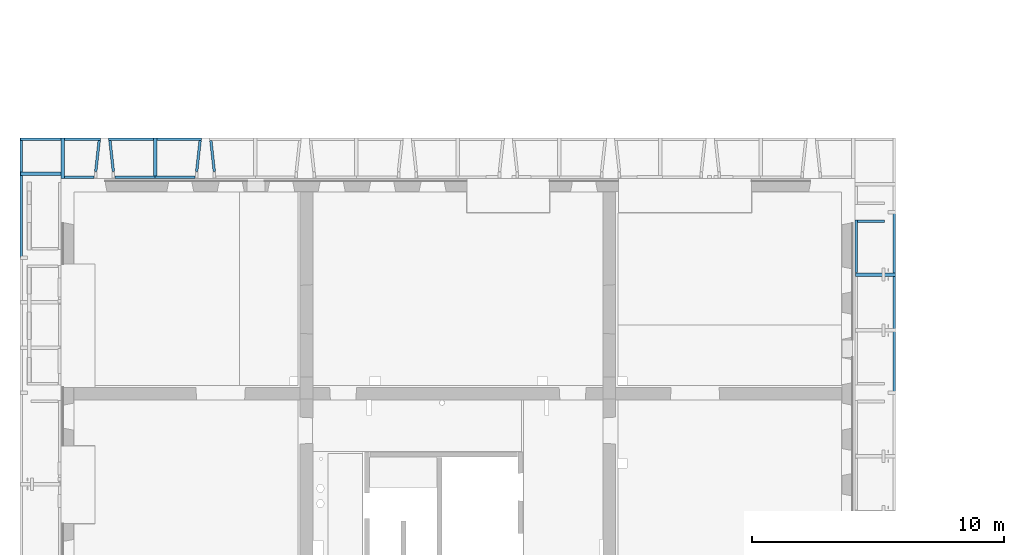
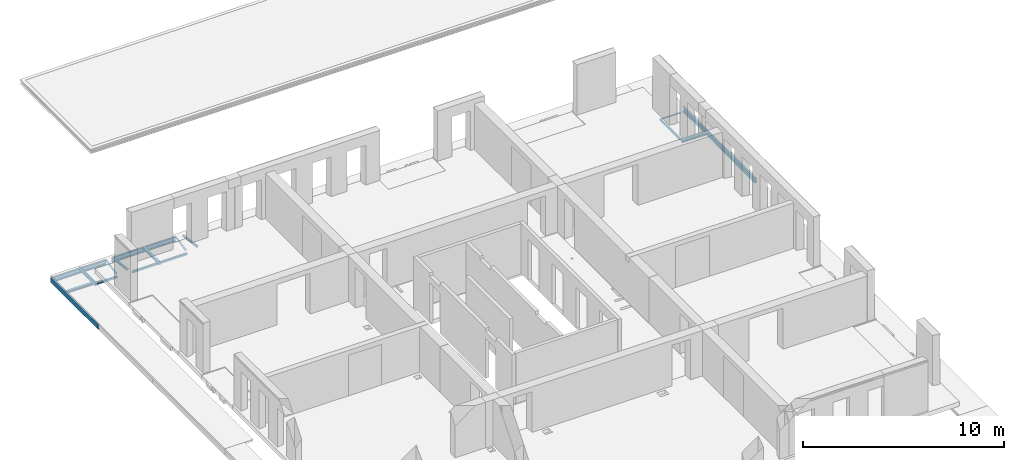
# One storey, part 7 of 27: 17 beams.
"""IFC2X3 building model written with IfcOpenShell, lengths in millimetres."""

from ifc_helpers import new_model, entity, si_unit, converted_unit, derived_unit, direction, frame, frame_2d, origin, place, context, subcontext, project, spatial, polyline, circle_curve, parameter, trimmed, segment, composite_curve, i_section, outline, extrude, material, type_object, element, save


model = new_model("IFC2X3")

# Units and contexts
model_context = context("Model", 3, precision=0.01, world=origin(), true_north=direction((6.12303176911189e-17, 1.0)))
body_context = subcontext(model_context, "Body", "Model", "MODEL_VIEW")
ifc_project = project(units=[si_unit("LENGTHUNIT", "METRE", prefix="MILLI"), si_unit("AREAUNIT", "SQUARE_METRE"), si_unit("VOLUMEUNIT", "CUBIC_METRE"), converted_unit("PLANEANGLEUNIT", "DEGREE", entity("IfcRatioMeasure", 0.0174532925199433), si_unit("PLANEANGLEUNIT", "RADIAN"), dimensions=[0, 0, 0, 0, 0, 0, 0]), si_unit("MASSUNIT", "GRAM", prefix="KILO"), derived_unit("MASSDENSITYUNIT", [(si_unit("MASSUNIT", "GRAM", prefix="KILO"), 1), (si_unit("LENGTHUNIT", "METRE"), -3)]), si_unit("TIMEUNIT", "SECOND"), si_unit("FREQUENCYUNIT", "HERTZ"), si_unit("THERMODYNAMICTEMPERATUREUNIT", "DEGREE_CELSIUS"), derived_unit("THERMALTRANSMITTANCEUNIT", [(si_unit("MASSUNIT", "GRAM", prefix="KILO"), 1), (si_unit("THERMODYNAMICTEMPERATUREUNIT", "KELVIN"), -1), (si_unit("TIMEUNIT", "SECOND"), -3)]), derived_unit("VOLUMETRICFLOWRATEUNIT", [(si_unit("LENGTHUNIT", "METRE"), 3), (si_unit("TIMEUNIT", "SECOND"), -1)]), si_unit("ELECTRICCURRENTUNIT", "AMPERE"), si_unit("ELECTRICVOLTAGEUNIT", "VOLT"), si_unit("POWERUNIT", "WATT"), si_unit("FORCEUNIT", "NEWTON", prefix="KILO"), si_unit("ILLUMINANCEUNIT", "LUX"), si_unit("LUMINOUSFLUXUNIT", "LUMEN"), si_unit("LUMINOUSINTENSITYUNIT", "CANDELA"), derived_unit("USERDEFINED", [(si_unit("MASSUNIT", "GRAM", prefix="KILO"), -1), (si_unit("LENGTHUNIT", "METRE"), -2), (si_unit("TIMEUNIT", "SECOND"), 3), (si_unit("LUMINOUSFLUXUNIT", "LUMEN"), 1)]), derived_unit("LINEARVELOCITYUNIT", [(si_unit("LENGTHUNIT", "METRE"), 1), (si_unit("TIMEUNIT", "SECOND"), -1)]), si_unit("PRESSUREUNIT", "PASCAL"), derived_unit("USERDEFINED", [(si_unit("LENGTHUNIT", "METRE"), -2), (si_unit("MASSUNIT", "GRAM", prefix="KILO"), 1), (si_unit("TIMEUNIT", "SECOND"), -2)])], contexts=[model_context])

# Site, building, storey
site_placement = place(None, origin())
site = spatial("IfcSite", under=ifc_project, at=site_placement, Name="Default", CompositionType="ELEMENT")
building_placement = place(site_placement, origin())
building = spatial("IfcBuilding", under=site, at=building_placement, Name="niet gebruiken", CompositionType="ELEMENT")
storey_placement = place(building_placement, frame((0.0, 0.0, 18000.0)))
storey = spatial("IfcBuildingStorey", under=building, at=storey_placement, Name="05 vijfde verdieping", CompositionType="ELEMENT", Elevation=18000.0)

# Beams
ifc_material = material(Name="NLRS_h2_staal")
beam_type_1 = type_object("IfcBeamType", Name="NLRS_28.11_SF_WPB_stalen ligger HEA_gen:ligger HEA 140", PredefinedType="BEAM")
beam_1_placement = place(storey_placement, frame((157510.0, 29430.0, -1015.0)))
element("IfcBeam", 1, at=beam_1_placement, inside=storey, type_object=beam_type_1, material=ifc_material, Name="NLRS_28.11_SF_WPB_stalen ligger HEA_gen:ligger HEA 140", ObjectType="NLRS_28.11_SF_WPB_stalen ligger HEA_gen:ligger HEA 140", context=body_context, shape_type="SweptSolid", body=[
    extrude(i_section(OverallWidth=140.000000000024, OverallDepth=133.000000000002, WebThickness=5.49999999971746, FlangeThickness=8.50000000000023, FilletRadius=12.0000000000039, at=frame_2d((-3.25428572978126e-12, -4.32720526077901e-12), x_axis=(0.0, 1.0))), frame((0.0, 0.0, -66.5000000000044), z_axis=(1.0, 0.0, 0.0), x_axis=(0.0, 0.0, -1.0)), (0.0, 0.0, 1.0), 1579.73984361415),
])
beam_2_placement = place(storey_placement, frame((126020.0, 33420.0, -1015.0), z_axis=(0.0, 0.0, 1.0), x_axis=(-1.0, 0.0, 0.0)))
element("IfcBeam", 2, at=beam_2_placement, inside=storey, type_object=beam_type_1, material=ifc_material, Name="NLRS_28.11_SF_WPB_stalen ligger HEA_gen:ligger HEA 140", ObjectType="NLRS_28.11_SF_WPB_stalen ligger HEA_gen:ligger HEA 140", context=body_context, shape_type="SweptSolid", body=[
    extrude(i_section(OverallWidth=140.000000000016, OverallDepth=133.0, WebThickness=5.4999999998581, FlangeThickness=8.49999999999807, FilletRadius=12.0000000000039, at=frame_2d((-4.33431068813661e-12, 8.66151594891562e-12), x_axis=(0.0, 1.0))), frame((0.0, 0.0, -66.5000000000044), z_axis=(1.0, 0.0, 0.0), x_axis=(0.0, 0.0, -1.0)), (0.0, 0.0, 1.0), 1609.99999999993),
])
for number, where, z_axis, x_axis, name in (
    (3, (129750.0, 34840.0, -1015.0), (0.0, 0.0, 1.0), (0.0, -1.0, 0.0), "NLRS_28.11_SF_WPB_stalen ligger HEA_gen:ligger HEA 140"),
    (4, (126090.0, 34840.0, -1015.0), (0.0, 0.0, 1.0), (0.0, -1.0, 0.0), "NLRS_28.11_SF_WPB_stalen ligger HEA_gen:ligger HEA 140"),
):
    element("IfcBeam", number, at=place(storey_placement, frame(where, z_axis=z_axis, x_axis=x_axis)), inside=storey, type_object=beam_type_1, material=ifc_material, Name=name, ObjectType="NLRS_28.11_SF_WPB_stalen ligger HEA_gen:ligger HEA 140", context=body_context, shape_type="SweptSolid", body=[
        extrude(i_section(OverallWidth=140.000000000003, OverallDepth=133.0, WebThickness=5.49999999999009, FlangeThickness=8.49999999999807, FilletRadius=11.9999999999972, at=frame_2d((-4.33431068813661e-12, -1.73301373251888e-11), x_axis=(0.0, 1.0))), frame((0.0, 0.0, -66.5000000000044), z_axis=(1.0, 0.0, 0.0), x_axis=(0.0, 0.0, -1.0)), (0.0, 0.0, 1.0), 1610.0),
    ])
beam_type_2 = type_object("IfcBeamType", Name="NLRS_28.11_SF_WPB_stalen ligger UNP_gen:ligger UNP 300", PredefinedType="BEAM")
beam_3_placement = place(storey_placement, frame((159073.0, 24750.0, -1015.0), z_axis=(0.0, 0.0, 1.0), x_axis=(0.0, 1.0, 0.0)))
element("IfcBeam", 5, at=beam_3_placement, inside=storey, type_object=beam_type_2, material=ifc_material, Name="NLRS_28.11_SF_WPB_stalen ligger UNP_gen:ligger UNP 300", ObjectType="NLRS_28.11_SF_WPB_stalen ligger UNP_gen:ligger UNP 300", context=body_context, shape_type="SweptSolid", body=[
    extrude(outline(composite_curve([segment(polyline([(-150.062397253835, -54.6666666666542), (149.937602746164, -54.6666666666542)]), True, "CONTINUOUS"), segment(polyline([(149.937602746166, -54.6666666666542), (149.937602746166, 45.333333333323)]), True, "CONTINUOUS"), segment(polyline([(149.937602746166, 45.3333333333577), (142.655201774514, 45.3333333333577)]), True, "CONTINUOUS"), segment(trimmed(circle_curve(frame_2d((142.655201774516, 37.3333333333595), x_axis=(0.0, 1.0)), 8.00000000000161), [parameter(0.0)], [parameter(89.9999999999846)], True, "PARAMETER"), True, "CONTINUOUS"), segment(polyline([(134.655201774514, 37.3333333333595), (130.390412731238, -28.6666666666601)]), True, "CONTINUOUS"), segment(trimmed(circle_curve(frame_2d((114.390412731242, -28.6666666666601), x_axis=(1.0, 0.0)), 15.9999999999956), [parameter(269.999999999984)], [parameter(0.0)], True, "PARAMETER"), False, "CONTINUOUS"), segment(polyline([(114.39041273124, -44.6666666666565), (-113.87586063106, -44.6666666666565)]), True, "CONTINUOUS"), segment(trimmed(circle_curve(frame_2d((-113.875860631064, -28.6666666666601), x_axis=(0.0, -1.0)), 15.9999999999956), [parameter(269.999999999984)], [parameter(0.0)], True, "PARAMETER"), False, "CONTINUOUS"), segment(polyline([(-129.875860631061, -28.6666666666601), (-135.044959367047, 37.3333333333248)]), True, "CONTINUOUS"), segment(trimmed(circle_curve(frame_2d((-143.04495936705, 37.3333333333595), x_axis=(1.0, 0.0)), 8.00000000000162), [parameter(0.0)], [parameter(89.9999999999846)], True, "PARAMETER"), True, "CONTINUOUS"), segment(polyline([(-143.044959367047, 45.3333333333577), (-150.062397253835, 45.3333333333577)]), True, "CONTINUOUS"), segment(polyline([(-150.062397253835, 45.3333333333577), (-150.062397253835, -54.6666666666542)]), True, "CONTINUOUS")], self_intersect=False)), frame((0.0, 27.6666666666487, -150.062397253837), z_axis=(1.0, 0.0, 0.0), x_axis=(0.0, 0.0, -1.0)), (0.0, 0.0, 1.0), 7200.00000000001),
])
beam_4_placement = place(storey_placement, frame((124427.0, 34823.0, -1015.0), z_axis=(0.0, 0.0, 1.0), x_axis=(0.0, -1.0, 0.0)))
element("IfcBeam", 6, at=beam_4_placement, inside=storey, type_object=beam_type_2, material=ifc_material, Name="NLRS_28.11_SF_WPB_stalen ligger UNP_gen:ligger UNP 300", ObjectType="NLRS_28.11_SF_WPB_stalen ligger UNP_gen:ligger UNP 300", context=body_context, shape_type="SweptSolid", body=[
    extrude(outline(composite_curve([segment(polyline([(-150.062397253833, -54.6666666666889), (149.937602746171, -54.6666666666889)]), True, "CONTINUOUS"), segment(polyline([(149.937602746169, -54.6666666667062), (149.937602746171, 45.3333333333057)]), True, "CONTINUOUS"), segment(polyline([(149.937602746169, 45.3333333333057), (142.655201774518, 45.3333333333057)]), True, "CONTINUOUS"), segment(trimmed(circle_curve(frame_2d((142.655201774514, 37.3333333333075), x_axis=(0.0, 1.0)), 7.99999999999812), [parameter(0.0)], [parameter(90.0000000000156)], True, "PARAMETER"), True, "CONTINUOUS"), segment(polyline([(134.655201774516, 37.3333333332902), (130.390412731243, -28.6666666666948)]), True, "CONTINUOUS"), segment(trimmed(circle_curve(frame_2d((114.39041273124, -28.6666666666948), x_axis=(1.0, 0.0)), 15.9999999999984), [parameter(270.0)], [parameter(0.0)], True, "PARAMETER"), False, "CONTINUOUS"), segment(polyline([(114.390412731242, -44.6666666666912), (-113.875860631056, -44.6666666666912)]), True, "CONTINUOUS"), segment(trimmed(circle_curve(frame_2d((-113.875860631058, -28.6666666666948), x_axis=(0.0, -1.0)), 15.9999999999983), [parameter(270.0)], [parameter(0.0)], True, "PARAMETER"), False, "CONTINUOUS"), segment(polyline([(-129.875860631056, -28.6666666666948), (-135.044959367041, 37.3333333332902)]), True, "CONTINUOUS"), segment(trimmed(circle_curve(frame_2d((-143.044959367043, 37.3333333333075), x_axis=(1.0, 0.0)), 7.99999999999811), [parameter(0.0)], [parameter(90.0000000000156)], True, "PARAMETER"), True, "CONTINUOUS"), segment(polyline([(-143.044959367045, 45.3333333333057), (-150.06239725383, 45.3333333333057)]), True, "CONTINUOUS"), segment(polyline([(-150.062397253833, 45.3333333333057), (-150.06239725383, -54.6666666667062)]), True, "CONTINUOUS")], self_intersect=False)), frame((-27.0, 27.6666666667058, -150.062397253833), z_axis=(1.0, 0.0, 0.0), x_axis=(0.0, 0.0, -1.0)), (0.0, 0.0, 1.0), 4750.00000000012),
])
beam_5_placement = place(storey_placement, frame((127912.705158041, 34823.0, -1015.0)))
element("IfcBeam", 7, at=beam_5_placement, inside=storey, type_object=beam_type_2, material=ifc_material, Name="NLRS_28.11_SF_WPB_stalen ligger UNP_gen:ligger UNP 300", ObjectType="NLRS_28.11_SF_WPB_stalen ligger UNP_gen:ligger UNP 300", context=body_context, shape_type="SweptSolid", body=[
    extrude(outline(composite_curve([segment(polyline([(-149.937602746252, -45.3333333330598), (-142.655201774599, -45.3333333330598)]), True, "CONTINUOUS"), segment(trimmed(circle_curve(frame_2d((-142.655201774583, -37.3333333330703), x_axis=(0.0, -1.0)), 7.99999999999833), [parameter(0.0)], [parameter(90.0000000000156)], True, "PARAMETER"), True, "CONTINUOUS"), segment(polyline([(-134.655201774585, -37.3333333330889), (-130.390412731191, 28.6666666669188)]), True, "CONTINUOUS"), segment(trimmed(circle_curve(frame_2d((-114.390412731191, 28.6666666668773), x_axis=(-1.0, 0.0)), 16.0000000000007), [parameter(270.0)], [parameter(0.0)], True, "PARAMETER"), False, "CONTINUOUS"), segment(polyline([(-114.390412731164, 44.666666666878), (113.875860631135, 44.6666666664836)]), True, "CONTINUOUS"), segment(trimmed(circle_curve(frame_2d((113.875860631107, 28.6666666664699), x_axis=(0.0, 1.0)), 16.0000000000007), [parameter(270.0)], [parameter(0.0)], True, "PARAMETER"), False, "CONTINUOUS"), segment(polyline([(129.875860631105, 28.6666666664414), (135.044959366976, -37.3333333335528)]), True, "CONTINUOUS"), segment(trimmed(circle_curve(frame_2d((143.044959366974, -37.3333333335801), x_axis=(-1.0, 0.0)), 7.99999999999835), [parameter(0.0)], [parameter(90.0000000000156)], True, "PARAMETER"), True, "CONTINUOUS"), segment(polyline([(143.044959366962, -45.3333333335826), (150.062397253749, -45.3333333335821)]), True, "CONTINUOUS"), segment(polyline([(150.062397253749, -45.3333333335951), (150.062397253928, 54.6666666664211)]), True, "CONTINUOUS"), segment(polyline([(150.062397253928, 54.6666666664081), (-149.937602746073, 54.6666666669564)]), True, "CONTINUOUS"), segment(polyline([(-149.937602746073, 54.6666666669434), (-149.937602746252, -45.3333333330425)]), True, "CONTINUOUS")], self_intersect=False)), frame((0.0, -27.6666666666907, -149.937602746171), z_axis=(1.0, 0.0, 0.0), x_axis=(0.0, 0.0, -1.0)), (0.0, 0.0, 1.0), 3675.0),
])
beam_6_placement = place(storey_placement, frame((124410.0, 34823.0, -1015.0)))
element("IfcBeam", 8, at=beam_6_placement, inside=storey, type_object=beam_type_2, material=ifc_material, Name="NLRS_28.11_SF_WPB_stalen ligger UNP_gen:ligger UNP 300", ObjectType="NLRS_28.11_SF_WPB_stalen ligger UNP_gen:ligger UNP 300", context=body_context, shape_type="SweptSolid", body=[
    extrude(outline(composite_curve([segment(polyline([(-149.937602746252, -45.3333333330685), (-142.655201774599, -45.3333333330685)]), True, "CONTINUOUS"), segment(trimmed(circle_curve(frame_2d((-142.655201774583, -37.333333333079), x_axis=(0.0, -1.0)), 7.99999999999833), [parameter(0.0)], [parameter(90.0000000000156)], True, "PARAMETER"), True, "CONTINUOUS"), segment(polyline([(-134.655201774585, -37.3333333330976), (-130.390412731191, 28.6666666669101)]), True, "CONTINUOUS"), segment(trimmed(circle_curve(frame_2d((-114.390412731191, 28.6666666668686), x_axis=(-1.0, 0.0)), 16.0000000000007), [parameter(270.0)], [parameter(0.0)], True, "PARAMETER"), False, "CONTINUOUS"), segment(polyline([(-114.390412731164, 44.6666666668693), (113.875860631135, 44.666666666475)]), True, "CONTINUOUS"), segment(trimmed(circle_curve(frame_2d((113.875860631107, 28.6666666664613), x_axis=(0.0, 1.0)), 16.0000000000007), [parameter(270.0)], [parameter(0.0)], True, "PARAMETER"), False, "CONTINUOUS"), segment(polyline([(129.875860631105, 28.6666666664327), (135.044959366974, -37.3333333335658)]), True, "CONTINUOUS"), segment(trimmed(circle_curve(frame_2d((143.044959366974, -37.3333333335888), x_axis=(-1.0, 0.0)), 7.99999999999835), [parameter(0.0)], [parameter(90.0000000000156)], True, "PARAMETER"), True, "CONTINUOUS"), segment(polyline([(143.044959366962, -45.3333333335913), (150.062397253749, -45.3333333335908)]), True, "CONTINUOUS"), segment(polyline([(150.062397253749, -45.3333333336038), (150.062397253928, 54.6666666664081)]), True, "CONTINUOUS"), segment(polyline([(150.062397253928, 54.6666666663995), (-149.937602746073, 54.6666666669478)]), True, "CONTINUOUS"), segment(polyline([(-149.937602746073, 54.6666666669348), (-149.937602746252, -45.3333333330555)]), True, "CONTINUOUS")], self_intersect=False)), frame((0.0, -27.6666666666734, -149.937602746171), z_axis=(1.0, 0.0, 0.0), x_axis=(0.0, 0.0, -1.0)), (0.0, 0.0, 1.0), 3175.00000000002),
])
beam_type_3 = type_object("IfcBeamType", Name="NLRS_28.11_SF_WPB_stalen ligger hoekprofiel gelijkzijdig_gen:ligger gelijzijdig hoekprofiel LEQU_100x100x10", PredefinedType="BEAM")
beam_7_placement = place(storey_placement, frame((132012.640156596, 34741.7771044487, -1015.0), z_axis=(0.0, 0.0, 1.0), x_axis=(0.110431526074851, -0.993883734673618, 0.0)))
element("IfcBeam", 9, at=beam_7_placement, inside=storey, type_object=beam_type_3, material=ifc_material, Name="NLRS_28.11_SF_WPB_stalen ligger hoekprofiel gelijkzijdig_gen:ligger gelijzijdig hoekprofiel LEQU_100x100x10", ObjectType="NLRS_28.11_SF_WPB_stalen ligger hoekprofiel gelijkzijdig_gen:ligger gelijzijdig hoekprofiel LEQU_100x100x10", context=body_context, shape_type="SweptSolid", body=[
    extrude(outline(composite_curve([segment(polyline([(-37.7777777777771, -37.7777777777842), (62.222222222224, -37.7777777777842)]), True, "CONTINUOUS"), segment(polyline([(62.2222222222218, -37.7777777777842), (62.2222222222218, -33.7777777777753)]), True, "CONTINUOUS"), segment(trimmed(circle_curve(frame_2d((56.2222222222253, -33.7777777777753), x_axis=(1.0, 0.0)), 5.99999999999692), [parameter(0.0)], [parameter(90.0000000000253)], True, "PARAMETER"), True, "CONTINUOUS"), segment(polyline([(56.2222222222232, -27.7777777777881), (-15.7777777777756, -27.7777777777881)]), True, "CONTINUOUS"), segment(trimmed(circle_curve(frame_2d((-15.7777777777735, -15.7777777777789), x_axis=(0.0, -1.0)), 12.0000000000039), [parameter(270.000000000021)], [parameter(0.0)], True, "PARAMETER"), False, "CONTINUOUS"), segment(polyline([(-27.7777777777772, -15.7777777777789), (-27.7777777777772, 56.2222222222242)]), True, "CONTINUOUS"), segment(trimmed(circle_curve(frame_2d((-33.7777777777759, 56.2222222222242), x_axis=(1.0, 0.0)), 5.99999999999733), [parameter(0.0)], [parameter(90.0000000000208)], True, "PARAMETER"), True, "CONTINUOUS"), segment(polyline([(-33.777777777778, 62.2222222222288), (-37.7777777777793, 62.2222222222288)]), True, "CONTINUOUS"), segment(polyline([(-37.7777777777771, 62.2222222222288), (-37.7777777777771, -37.7777777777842)]), True, "CONTINUOUS")], self_intersect=False)), frame((0.0, -62.222222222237, -37.7777777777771), z_axis=(1.0, 0.0, 0.0), x_axis=(0.0, 0.0, -1.0)), (0.0, 0.0, 1.0), 1230.0),
])
beam_8_placement = place(storey_placement, frame((157480.0, 29500.0, -1015.0), z_axis=(0.0, 0.0, 1.0), x_axis=(0.0, 1.0, 0.0)))
element("IfcBeam", 10, at=beam_8_placement, inside=storey, type_object=beam_type_3, material=ifc_material, Name="NLRS_28.11_SF_WPB_stalen ligger hoekprofiel gelijkzijdig_gen:ligger gelijzijdig hoekprofiel LEQU_100x100x10", ObjectType="NLRS_28.11_SF_WPB_stalen ligger hoekprofiel gelijkzijdig_gen:ligger gelijzijdig hoekprofiel LEQU_100x100x10", context=body_context, shape_type="SweptSolid", body=[
    extrude(outline(composite_curve([segment(polyline([(-37.7777777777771, -62.2222222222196), (-33.7777777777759, -62.2222222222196)]), True, "CONTINUOUS"), segment(trimmed(circle_curve(frame_2d((-33.7777777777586, -56.222222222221), x_axis=(0.0, -1.0)), 5.9999999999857), [parameter(0.0)], [parameter(90.0000000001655)], True, "PARAMETER"), True, "CONTINUOUS"), segment(polyline([(-27.7777777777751, -56.222222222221), (-27.7777777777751, 15.7777777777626)]), True, "CONTINUOUS"), segment(trimmed(circle_curve(frame_2d((-15.7777777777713, 15.7777777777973), x_axis=(-1.0, 0.0)), 12.000000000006), [parameter(270.000000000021)], [parameter(0.0)], True, "PARAMETER"), False, "CONTINUOUS"), segment(polyline([(-15.7777777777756, 27.7777777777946), (56.2222222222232, 27.7777777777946)]), True, "CONTINUOUS"), segment(trimmed(circle_curve(frame_2d((56.2222222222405, 33.7777777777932), x_axis=(0.0, -1.0)), 5.9999999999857), [parameter(0.0)], [parameter(90.0000000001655)], True, "PARAMETER"), True, "CONTINUOUS"), segment(polyline([(62.222222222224, 33.7777777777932), (62.222222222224, 37.7777777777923)]), True, "CONTINUOUS"), segment(polyline([(62.222222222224, 37.7777777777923), (-37.7777777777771, 37.7777777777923)]), True, "CONTINUOUS"), segment(polyline([(-37.7777777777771, 37.7777777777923), (-37.7777777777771, -62.2222222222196)]), True, "CONTINUOUS")], self_intersect=False)), frame((10.0, -37.7777777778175, -37.7777777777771), z_axis=(1.0, 0.0, 0.0), x_axis=(0.0, 0.0, -1.0)), (0.0, 0.0, 1.0), 2089.99999999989),
])
beam_9_placement = place(storey_placement, frame((157580.154175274, 31599.754235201, -1015.0)))
element("IfcBeam", 11, at=beam_9_placement, inside=storey, type_object=beam_type_3, material=ifc_material, Name="NLRS_28.11_SF_WPB_stalen ligger hoekprofiel gelijkzijdig_gen:ligger gelijzijdig hoekprofiel LEQU_100x100x10", ObjectType="NLRS_28.11_SF_WPB_stalen ligger hoekprofiel gelijkzijdig_gen:ligger gelijzijdig hoekprofiel LEQU_100x100x10", context=body_context, shape_type="SweptSolid", body=[
    extrude(outline(composite_curve([segment(polyline([(-37.7777777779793, -62.2222222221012), (-33.777777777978, -62.2222222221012)]), True, "CONTINUOUS"), segment(trimmed(circle_curve(frame_2d((-33.7777777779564, -56.2222222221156), x_axis=(0.0, -1.0)), 5.99999999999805), [parameter(0.0)], [parameter(90.0000000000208)], True, "PARAMETER"), True, "CONTINUOUS"), segment(polyline([(-27.7777777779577, -56.2222222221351), (-27.7777777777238, 15.7777777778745)]), True, "CONTINUOUS"), segment(trimmed(circle_curve(frame_2d((-15.7777777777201, 15.7777777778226), x_axis=(-1.0, 0.0)), 12.0000000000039), [parameter(270.000000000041)], [parameter(0.0)], True, "PARAMETER"), False, "CONTINUOUS"), segment(polyline([(-15.7777777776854, 27.7777777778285), (56.2222222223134, 27.7777777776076)]), True, "CONTINUOUS"), segment(trimmed(circle_curve(frame_2d((56.2222222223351, 33.7777777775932), x_axis=(0.0, -1.0)), 5.99999999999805), [parameter(0.0)], [parameter(90.0000000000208)], True, "PARAMETER"), True, "CONTINUOUS"), segment(polyline([(62.2222222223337, 33.7777777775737), (62.2222222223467, 37.7777777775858)]), True, "CONTINUOUS"), segment(polyline([(62.2222222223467, 37.7777777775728), (-37.7777777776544, 37.7777777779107)]), True, "CONTINUOUS"), segment(polyline([(-37.7777777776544, 37.7777777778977), (-37.7777777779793, -62.2222222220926)]), True, "CONTINUOUS")], self_intersect=False)), frame((12.7000006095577, -37.7777777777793, -37.7777777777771), z_axis=(1.0, 0.0, 0.0), x_axis=(0.0, 0.0, -1.0)), (0.0, 0.0, 1.0), 1067.14582411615),
])
beam_10_placement = place(storey_placement, frame((128170.0, 33330.0, -1015.0)))
element("IfcBeam", 12, at=beam_10_placement, inside=storey, type_object=beam_type_3, material=ifc_material, Name="NLRS_28.11_SF_WPB_stalen ligger hoekprofiel gelijkzijdig_gen:ligger gelijzijdig hoekprofiel LEQU_100x100x10", ObjectType="NLRS_28.11_SF_WPB_stalen ligger hoekprofiel gelijkzijdig_gen:ligger gelijzijdig hoekprofiel LEQU_100x100x10", context=body_context, shape_type="SweptSolid", body=[
    extrude(outline(composite_curve([segment(polyline([(-37.7777777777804, -37.7777777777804), (62.2222222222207, -37.7777777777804)]), True, "CONTINUOUS"), segment(polyline([(62.2222222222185, -37.777777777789), (62.2222222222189, -33.7777777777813)]), True, "CONTINUOUS"), segment(trimmed(circle_curve(frame_2d((56.2222222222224, -33.7777777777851), x_axis=(1.0, 0.0)), 5.99999999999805), [parameter(0.0)], [parameter(90.0000000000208)], True, "PARAMETER"), True, "CONTINUOUS"), segment(polyline([(56.2222222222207, -27.7777777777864), (-15.777777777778, -27.7777777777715)]), True, "CONTINUOUS"), segment(trimmed(circle_curve(frame_2d((-15.7777777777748, -15.7777777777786), x_axis=(0.0, -1.0)), 12.0000000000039), [parameter(270.000000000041)], [parameter(0.0)], True, "PARAMETER"), False, "CONTINUOUS"), segment(polyline([(-27.7777777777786, -15.7777777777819), (-27.7777777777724, 56.2222222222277)]), True, "CONTINUOUS"), segment(trimmed(circle_curve(frame_2d((-33.777777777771, 56.2222222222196), x_axis=(1.0, 0.0)), 5.99999999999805), [parameter(0.0)], [parameter(90.0000000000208)], True, "PARAMETER"), True, "CONTINUOUS"), segment(polyline([(-33.7777777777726, 62.2222222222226), (-37.7777777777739, 62.2222222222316)]), True, "CONTINUOUS"), segment(polyline([(-37.7777777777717, 62.2222222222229), (-37.7777777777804, -37.7777777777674)]), True, "CONTINUOUS")], self_intersect=False)), frame((0.0, -62.2222222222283, -37.7777777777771), z_axis=(1.0, 0.0, 0.0), x_axis=(0.0, 0.0, -1.0)), (0.0, 0.0, 1.0), 1579.99999939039),
])
beam_11_placement = place(storey_placement, frame((128012.640156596, 34741.7771044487, -1015.0), z_axis=(0.0, 0.0, 1.0), x_axis=(0.110431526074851, -0.993883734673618, 0.0)))
element("IfcBeam", 13, at=beam_11_placement, inside=storey, type_object=beam_type_3, material=ifc_material, Name="NLRS_28.11_SF_WPB_stalen ligger hoekprofiel gelijkzijdig_gen:ligger gelijzijdig hoekprofiel LEQU_100x100x10", ObjectType="NLRS_28.11_SF_WPB_stalen ligger hoekprofiel gelijkzijdig_gen:ligger gelijzijdig hoekprofiel LEQU_100x100x10", context=body_context, shape_type="SweptSolid", body=[
    extrude(outline(composite_curve([segment(polyline([(-37.7777777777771, -37.777777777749), (62.222222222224, -37.777777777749)]), True, "CONTINUOUS"), segment(polyline([(62.2222222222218, -37.777777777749), (62.2222222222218, -33.777777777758)]), True, "CONTINUOUS"), segment(trimmed(circle_curve(frame_2d((56.2222222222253, -33.7777777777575), x_axis=(1.0, 0.0)), 5.99999999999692), [parameter(0.0)], [parameter(90.0000000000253)], True, "PARAMETER"), True, "CONTINUOUS"), segment(polyline([(56.2222222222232, -27.7777777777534), (-15.7777777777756, -27.7777777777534)]), True, "CONTINUOUS"), segment(trimmed(circle_curve(frame_2d((-15.7777777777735, -15.7777777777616), x_axis=(0.0, -1.0)), 12.0000000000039), [parameter(270.000000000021)], [parameter(0.0)], True, "PARAMETER"), False, "CONTINUOUS"), segment(polyline([(-27.7777777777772, -15.7777777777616), (-27.7777777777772, 56.2222222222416)]), True, "CONTINUOUS"), segment(trimmed(circle_curve(frame_2d((-33.7777777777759, 56.2222222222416), x_axis=(1.0, 0.0)), 5.99999999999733), [parameter(0.0)], [parameter(90.0000000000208)], True, "PARAMETER"), True, "CONTINUOUS"), segment(polyline([(-33.777777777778, 62.2222222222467), (-37.7777777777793, 62.2222222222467)]), True, "CONTINUOUS"), segment(polyline([(-37.7777777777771, 62.2222222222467), (-37.7777777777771, -37.777777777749)]), True, "CONTINUOUS")], self_intersect=False)), frame((0.0, -62.2222222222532, -37.7777777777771), z_axis=(1.0, 0.0, 0.0), x_axis=(0.0, 0.0, -1.0)), (0.0, 0.0, 1.0), 1230.0),
])
beam_12_placement = place(storey_placement, frame((131487.359843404, 34741.7771044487, -1015.0), z_axis=(0.0, 0.0, 1.0), x_axis=(-0.110431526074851, -0.993883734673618, 0.0)))
element("IfcBeam", 14, at=beam_12_placement, inside=storey, type_object=beam_type_3, material=ifc_material, Name="NLRS_28.11_SF_WPB_stalen ligger hoekprofiel gelijkzijdig_gen:ligger gelijzijdig hoekprofiel LEQU_100x100x10", ObjectType="NLRS_28.11_SF_WPB_stalen ligger hoekprofiel gelijkzijdig_gen:ligger gelijzijdig hoekprofiel LEQU_100x100x10", context=body_context, shape_type="SweptSolid", body=[
    extrude(outline(composite_curve([segment(polyline([(-37.7777777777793, -62.222222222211), (-33.777777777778, -62.222222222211)]), True, "CONTINUOUS"), segment(trimmed(circle_curve(frame_2d((-33.7777777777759, -56.2222222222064), x_axis=(0.0, -1.0)), 5.99999999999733), [parameter(0.0)], [parameter(90.0000000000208)], True, "PARAMETER"), True, "CONTINUOUS"), segment(polyline([(-27.7777777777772, -56.2222222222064), (-27.7777777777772, 15.7777777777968)]), True, "CONTINUOUS"), segment(trimmed(circle_curve(frame_2d((-15.7777777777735, 15.7777777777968), x_axis=(-1.0, 0.0)), 12.0000000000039), [parameter(270.000000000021)], [parameter(0.0)], True, "PARAMETER"), False, "CONTINUOUS"), segment(polyline([(-15.7777777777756, 27.7777777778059), (56.2222222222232, 27.7777777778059)]), True, "CONTINUOUS"), segment(trimmed(circle_curve(frame_2d((56.2222222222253, 33.7777777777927), x_axis=(0.0, -1.0)), 5.99999999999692), [parameter(0.0)], [parameter(90.0000000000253)], True, "PARAMETER"), True, "CONTINUOUS"), segment(polyline([(62.2222222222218, 33.7777777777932), (62.2222222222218, 37.7777777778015)]), True, "CONTINUOUS"), segment(polyline([(62.222222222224, 37.7777777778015), (-37.7777777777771, 37.7777777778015)]), True, "CONTINUOUS"), segment(polyline([(-37.7777777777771, 37.7777777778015), (-37.7777777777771, -62.222222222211)]), True, "CONTINUOUS")], self_intersect=False)), frame((0.0, 62.2222222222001, -37.7777777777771), z_axis=(1.0, 0.0, 0.0), x_axis=(0.0, 0.0, -1.0)), (0.0, 0.0, 1.0), 1230.0),
])
beam_13_placement = place(storey_placement, frame((127487.359843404, 34741.7771044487, -1015.0), z_axis=(0.0, 0.0, 1.0), x_axis=(-0.110431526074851, -0.993883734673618, 0.0)))
element("IfcBeam", 15, at=beam_13_placement, inside=storey, type_object=beam_type_3, material=ifc_material, Name="NLRS_28.11_SF_WPB_stalen ligger hoekprofiel gelijkzijdig_gen:ligger gelijzijdig hoekprofiel LEQU_100x100x10", ObjectType="NLRS_28.11_SF_WPB_stalen ligger hoekprofiel gelijkzijdig_gen:ligger gelijzijdig hoekprofiel LEQU_100x100x10", context=body_context, shape_type="SweptSolid", body=[
    extrude(outline(composite_curve([segment(polyline([(-37.7777777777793, -62.2222222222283), (-33.777777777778, -62.2222222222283)]), True, "CONTINUOUS"), segment(trimmed(circle_curve(frame_2d((-33.7777777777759, -56.2222222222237), x_axis=(0.0, -1.0)), 5.99999999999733), [parameter(0.0)], [parameter(90.0000000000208)], True, "PARAMETER"), True, "CONTINUOUS"), segment(polyline([(-27.7777777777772, -56.2222222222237), (-27.7777777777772, 15.7777777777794)]), True, "CONTINUOUS"), segment(trimmed(circle_curve(frame_2d((-15.7777777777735, 15.7777777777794), x_axis=(-1.0, 0.0)), 12.0000000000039), [parameter(270.000000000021)], [parameter(0.0)], True, "PARAMETER"), False, "CONTINUOUS"), segment(polyline([(-15.7777777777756, 27.7777777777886), (56.2222222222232, 27.7777777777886)]), True, "CONTINUOUS"), segment(trimmed(circle_curve(frame_2d((56.2222222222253, 33.7777777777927), x_axis=(0.0, -1.0)), 5.99999999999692), [parameter(0.0)], [parameter(90.0000000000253)], True, "PARAMETER"), True, "CONTINUOUS"), segment(polyline([(62.2222222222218, 33.7777777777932), (62.2222222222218, 37.7777777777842)]), True, "CONTINUOUS"), segment(polyline([(62.222222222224, 37.7777777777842), (-37.7777777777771, 37.7777777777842)]), True, "CONTINUOUS"), segment(polyline([(-37.7777777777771, 37.7777777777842), (-37.7777777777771, -62.2222222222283)]), True, "CONTINUOUS")], self_intersect=False)), frame((0.0, 62.2222222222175, -37.7777777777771), z_axis=(1.0, 0.0, 0.0), x_axis=(0.0, 0.0, -1.0)), (0.0, 0.0, 1.0), 1230.00000000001),
])
beam_14_placement = place(storey_placement, frame((129750.0, 33330.0, -1015.0)))
element("IfcBeam", 16, at=beam_14_placement, inside=storey, type_object=beam_type_3, material=ifc_material, Name="NLRS_28.11_SF_WPB_stalen ligger hoekprofiel gelijkzijdig_gen:ligger gelijzijdig hoekprofiel LEQU_100x100x10", ObjectType="NLRS_28.11_SF_WPB_stalen ligger hoekprofiel gelijkzijdig_gen:ligger gelijzijdig hoekprofiel LEQU_100x100x10", context=body_context, shape_type="SweptSolid", body=[
    extrude(outline(composite_curve([segment(polyline([(-37.7777777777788, -37.7777777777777), (62.2222222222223, -37.7777777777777)]), True, "CONTINUOUS"), segment(polyline([(62.2222222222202, -37.777777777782), (62.2222222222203, -33.7777777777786)]), True, "CONTINUOUS"), segment(trimmed(circle_curve(frame_2d((56.2222222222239, -33.7777777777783), x_axis=(1.0, 0.0)), 5.99999999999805), [parameter(0.0)], [parameter(90.0000000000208)], True, "PARAMETER"), True, "CONTINUOUS"), segment(polyline([(56.222222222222, -27.7777777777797), (-15.7777777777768, -27.7777777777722)]), True, "CONTINUOUS"), segment(trimmed(circle_curve(frame_2d((-15.7777777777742, -15.7777777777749), x_axis=(0.0, -1.0)), 12.0000000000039), [parameter(270.000000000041)], [parameter(0.0)], True, "PARAMETER"), False, "CONTINUOUS"), segment(polyline([(-27.7777777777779, -15.7777777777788), (-27.7777777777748, 56.2222222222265)]), True, "CONTINUOUS"), segment(trimmed(circle_curve(frame_2d((-33.7777777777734, 56.2222222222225), x_axis=(1.0, 0.0)), 5.99999999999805), [parameter(0.0)], [parameter(90.0000000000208)], True, "PARAMETER"), True, "CONTINUOUS"), segment(polyline([(-33.7777777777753, 62.2222222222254), (-37.7777777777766, 62.2222222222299)]), True, "CONTINUOUS"), segment(polyline([(-37.7777777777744, 62.2222222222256), (-37.7777777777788, -37.777777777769)]), True, "CONTINUOUS")], self_intersect=False)), frame((6.09588981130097e-07, -62.2222222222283, -37.7777777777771), z_axis=(1.0, 0.0, 0.0), x_axis=(0.0, 0.0, -1.0)), (0.0, 0.0, 1.0), 1579.99999939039),
])
beam_15_placement = place(storey_placement, frame((126120.0, 33330.0, -1015.0)))
element("IfcBeam", 17, at=beam_15_placement, inside=storey, type_object=beam_type_3, material=ifc_material, Name="NLRS_28.11_SF_WPB_stalen ligger hoekprofiel gelijkzijdig_gen:ligger gelijzijdig hoekprofiel LEQU_100x100x10", ObjectType="NLRS_28.11_SF_WPB_stalen ligger hoekprofiel gelijkzijdig_gen:ligger gelijzijdig hoekprofiel LEQU_100x100x10", context=body_context, shape_type="SweptSolid", body=[
    extrude(outline(composite_curve([segment(polyline([(-37.7777777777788, -37.7777777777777), (62.2222222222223, -37.7777777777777)]), True, "CONTINUOUS"), segment(polyline([(62.2222222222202, -37.777777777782), (62.2222222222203, -33.7777777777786)]), True, "CONTINUOUS"), segment(trimmed(circle_curve(frame_2d((56.2222222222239, -33.7777777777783), x_axis=(1.0, 0.0)), 5.99999999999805), [parameter(0.0)], [parameter(90.0000000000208)], True, "PARAMETER"), True, "CONTINUOUS"), segment(polyline([(56.222222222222, -27.7777777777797), (-15.7777777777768, -27.7777777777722)]), True, "CONTINUOUS"), segment(trimmed(circle_curve(frame_2d((-15.7777777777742, -15.7777777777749), x_axis=(0.0, -1.0)), 12.0000000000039), [parameter(270.000000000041)], [parameter(0.0)], True, "PARAMETER"), False, "CONTINUOUS"), segment(polyline([(-27.7777777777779, -15.7777777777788), (-27.7777777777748, 56.2222222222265)]), True, "CONTINUOUS"), segment(trimmed(circle_curve(frame_2d((-33.7777777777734, 56.2222222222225), x_axis=(1.0, 0.0)), 5.99999999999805), [parameter(0.0)], [parameter(90.0000000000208)], True, "PARAMETER"), True, "CONTINUOUS"), segment(polyline([(-33.7777777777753, 62.2222222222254), (-37.7777777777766, 62.2222222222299)]), True, "CONTINUOUS"), segment(polyline([(-37.7777777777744, 62.2222222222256), (-37.7777777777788, -37.777777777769)]), True, "CONTINUOUS")], self_intersect=False)), frame((40.0, -62.2222222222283, -37.7777777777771), z_axis=(1.0, 0.0, 0.0), x_axis=(0.0, 0.0, -1.0)), (0.0, 0.0, 1.0), 1170.00000000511),
])

save(model, "model.ifc")
